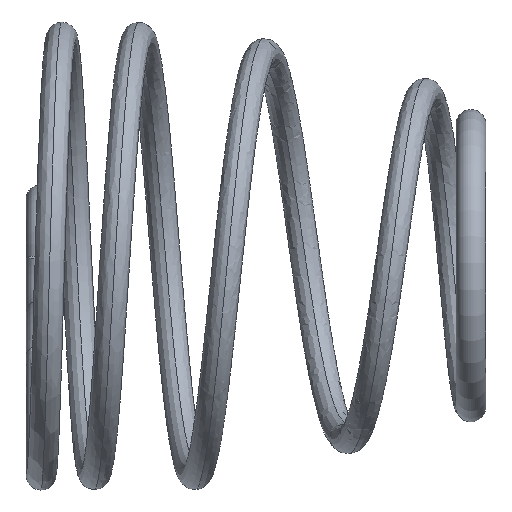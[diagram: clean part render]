
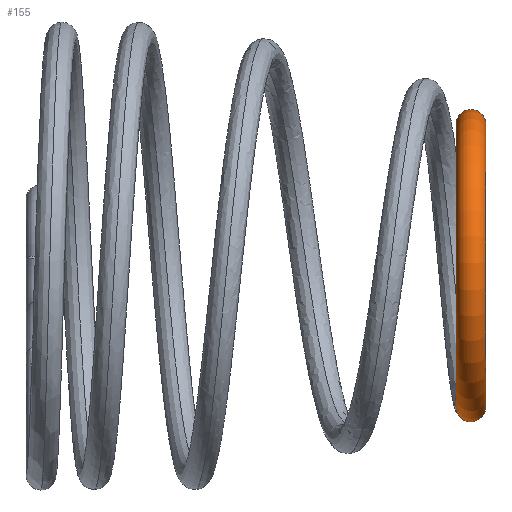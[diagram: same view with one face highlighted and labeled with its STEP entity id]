
A CAD part, front view. The second image highlights one B-rep face of the part: STEP entity #155.
In plain terms, the highlighted toroidal (fillet/blend) face has major radius 2.83 mm and minor radius 0.298 mm.
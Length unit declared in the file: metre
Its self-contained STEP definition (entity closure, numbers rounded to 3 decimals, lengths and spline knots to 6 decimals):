
#21=CIRCLE('',#173,0.000298);
#28=ORIENTED_EDGE('',*,*,#72,.T.);
#29=ORIENTED_EDGE('',*,*,#73,.T.);
#30=ORIENTED_EDGE('',*,*,#74,.F.);
#72=EDGE_CURVE('NONE',#95,#96,#108,.T.);
#73=EDGE_CURVE('NONE',#96,#95,#109,.T.);
#74=EDGE_CURVE('NONE',#97,#97,#21,.T.);
#95=VERTEX_POINT('',#234);
#96=VERTEX_POINT('',#235);
#97=VERTEX_POINT('',#242);
#108=B_SPLINE_CURVE_WITH_KNOTS('',3,(#229,#230,#231,#232,#233),
 .UNSPECIFIED.,.F.,.F.,(4,1,4),(0.,0.25,0.5),.UNSPECIFIED.);
#109=B_SPLINE_CURVE_WITH_KNOTS('',3,(#236,#237,#238,#239,#240),
 .UNSPECIFIED.,.F.,.F.,(4,1,4),(0.5,0.75,1.),.UNSPECIFIED.);
#122=EDGE_LOOP('',(#28,#29));
#123=EDGE_LOOP('',(#30));
#135=FACE_BOUND('',#122,.T.);
#136=FACE_BOUND('',#123,.T.);
#148=TOROIDAL_SURFACE('',#172,0.00283,0.000298);
#155=ADVANCED_FACE('NONE',(#135,#136),#148,.T.);
#172=AXIS2_PLACEMENT_3D('',#228,#191,#192);
#173=AXIS2_PLACEMENT_3D('',#241,#193,#194);
#191=DIRECTION('',(1.,0.,0.));
#192=DIRECTION('',(0.,0.002,1.));
#193=DIRECTION('',(0.,1.,-0.002));
#194=DIRECTION('',(0.,0.002,1.));
#228=CARTESIAN_POINT('',(-0.015784,-0.067118,0.006236));
#229=CARTESIAN_POINT('',(-0.015784,-0.067125,0.003108));
#230=CARTESIAN_POINT('',(-0.015628,-0.067125,0.003108));
#231=CARTESIAN_POINT('',(-0.015343,-0.067124,0.003406));
#232=CARTESIAN_POINT('',(-0.015628,-0.067124,0.003705));
#233=CARTESIAN_POINT('',(-0.015784,-0.067124,0.003705));
#234=CARTESIAN_POINT('',(-0.015784,-0.067125,0.003108));
#235=CARTESIAN_POINT('',(-0.015784,-0.067124,0.003705));
#236=CARTESIAN_POINT('',(-0.015784,-0.067124,0.003705));
#237=CARTESIAN_POINT('',(-0.01594,-0.067124,0.003705));
#238=CARTESIAN_POINT('',(-0.016225,-0.067124,0.003406));
#239=CARTESIAN_POINT('',(-0.01594,-0.067125,0.003108));
#240=CARTESIAN_POINT('',(-0.015784,-0.067125,0.003108));
#241=CARTESIAN_POINT('',(-0.015784,-0.067111,0.009066));
#242=CARTESIAN_POINT('',(-0.015784,-0.067111,0.009364));
